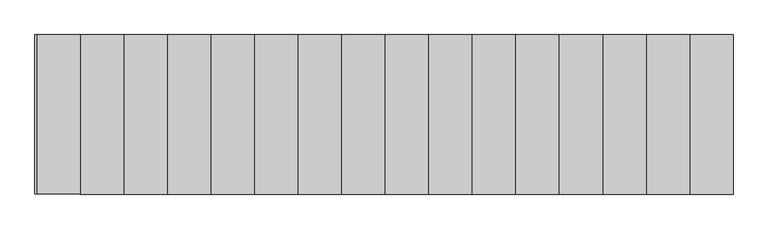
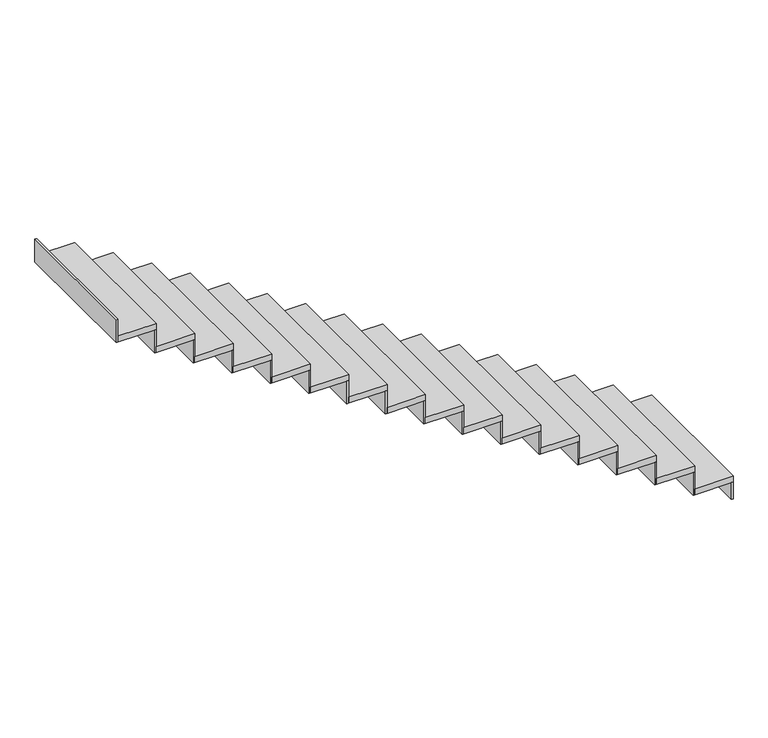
"""IFC4 building model written with IfcOpenShell, lengths in millimetres: stair flight geometry, Huella 50 mm Contrahuella 13 mm."""

from ifc_helpers import new_model, si_unit, frame, origin, place, context, project, spatial, polyline, outline, extrude, source, transform, mapped, element, save


def stair_flight_0d32d6d2(model_context):
    return source(origin(), model_context, "Body", "SweptSolid", [
        extrude(outline(polyline([(-7116.3952515, 5000.9420904), (-7103.8952515, 5000.9420904), (-7103.8952515, 3900.9420904), (-7116.3952515, 3900.9420904), (-7116.3952515, 5000.9420904)])), frame((0.0, 0.0, -5013.3149332), z_axis=(0.0, 0.0, 1.0), x_axis=(1.0, 0.0, 0.0)), (0.0, 0.0, 1.0), 139.0185255),
        extrude(outline(polyline([(-7403.8952515, 3900.9420904), (-7403.8952515, 5000.9420904), (-7103.8952515, 5000.9420904), (-7103.8952515, 3900.9420904), (-7403.8952515, 3900.9420904)])), frame((0.0, 0.0, -4874.2964077), z_axis=(0.0, 0.0, 1.0), x_axis=(1.0, 0.0, 0.0)), (0.0, 0.0, 1.0), 50.0),
        extrude(outline(polyline([(-7416.3952515, 5000.9420904), (-7403.8952515, 5000.9420904), (-7403.8952515, 3900.9420904), (-7416.3952515, 3900.9420904), (-7416.3952515, 5000.9420904)])), frame((0.0, 0.0, -4874.2964077), z_axis=(0.0, 0.0, 1.0), x_axis=(1.0, 0.0, 0.0)), (0.0, 0.0, 1.0), 189.0185255),
        extrude(outline(polyline([(-7703.8952515, 3900.9420904), (-7703.8952515, 5000.9420904), (-7403.8952515, 5000.9420904), (-7403.8952515, 3900.9420904), (-7703.8952515, 3900.9420904)])), frame((0.0, 0.0, -4685.2778822), z_axis=(0.0, 0.0, 1.0), x_axis=(1.0, 0.0, 0.0)), (0.0, 0.0, 1.0), 50.0),
        extrude(outline(polyline([(-7716.3952515, 5000.9420904), (-7703.8952515, 5000.9420904), (-7703.8952515, 3900.9420904), (-7716.3952515, 3900.9420904), (-7716.3952515, 5000.9420904)])), frame((0.0, 0.0, -4685.2778822), z_axis=(0.0, 0.0, 1.0), x_axis=(1.0, 0.0, 0.0)), (0.0, 0.0, 1.0), 189.0185255),
        extrude(outline(polyline([(-8003.8952515, 3900.9420904), (-8003.8952515, 5000.9420904), (-7703.8952515, 5000.9420904), (-7703.8952515, 3900.9420904), (-8003.8952515, 3900.9420904)])), frame((0.0, 0.0, -4496.2593567), z_axis=(0.0, 0.0, 1.0), x_axis=(1.0, 0.0, 0.0)), (0.0, 0.0, 1.0), 50.0),
        extrude(outline(polyline([(-8016.3952515, 5000.9420904), (-8003.8952515, 5000.9420904), (-8003.8952515, 3900.9420904), (-8016.3952515, 3900.9420904), (-8016.3952515, 5000.9420904)])), frame((0.0, 0.0, -4496.2593567), z_axis=(0.0, 0.0, 1.0), x_axis=(1.0, 0.0, 0.0)), (0.0, 0.0, 1.0), 189.0185255),
        extrude(outline(polyline([(-8303.8952515, 3900.9420904), (-8303.8952515, 5000.9420904), (-8003.8952515, 5000.9420904), (-8003.8952515, 3900.9420904), (-8303.8952515, 3900.9420904)])), frame((0.0, 0.0, -4307.2408313), z_axis=(0.0, 0.0, 1.0), x_axis=(1.0, 0.0, 0.0)), (0.0, 0.0, 1.0), 50.0),
        extrude(outline(polyline([(-8316.3952515, 5000.9420904), (-8303.8952515, 5000.9420904), (-8303.8952515, 3900.9420904), (-8316.3952515, 3900.9420904), (-8316.3952515, 5000.9420904)])), frame((0.0, 0.0, -4307.2408313), z_axis=(0.0, 0.0, 1.0), x_axis=(1.0, 0.0, 0.0)), (0.0, 0.0, 1.0), 189.0185255),
        extrude(outline(polyline([(-8603.8952515, 3900.9420904), (-8603.8952515, 5000.9420904), (-8303.8952515, 5000.9420904), (-8303.8952515, 3900.9420904), (-8603.8952515, 3900.9420904)])), frame((0.0, 0.0, -4118.2223058), z_axis=(0.0, 0.0, 1.0), x_axis=(1.0, 0.0, 0.0)), (0.0, 0.0, 1.0), 50.0),
        extrude(outline(polyline([(-8616.3952515, 5000.9420904), (-8603.8952515, 5000.9420904), (-8603.8952515, 3900.9420904), (-8616.3952515, 3900.9420904), (-8616.3952515, 5000.9420904)])), frame((0.0, 0.0, -4118.2223058), z_axis=(0.0, 0.0, 1.0), x_axis=(1.0, 0.0, 0.0)), (0.0, 0.0, 1.0), 189.0185255),
        extrude(outline(polyline([(-8903.8952515, 3900.9420904), (-8903.8952515, 5000.9420904), (-8603.8952515, 5000.9420904), (-8603.8952515, 3900.9420904), (-8903.8952515, 3900.9420904)])), frame((0.0, 0.0, -3929.2037803), z_axis=(0.0, 0.0, 1.0), x_axis=(1.0, 0.0, 0.0)), (0.0, 0.0, 1.0), 50.0),
        extrude(outline(polyline([(-8916.3952515, 5000.9420904), (-8903.8952515, 5000.9420904), (-8903.8952515, 3900.9420904), (-8916.3952515, 3900.9420904), (-8916.3952515, 5000.9420904)])), frame((0.0, 0.0, -3929.2037803), z_axis=(0.0, 0.0, 1.0), x_axis=(1.0, 0.0, 0.0)), (0.0, 0.0, 1.0), 189.0185255),
        extrude(outline(polyline([(-9203.8952515, 3900.9420904), (-9203.8952515, 5000.9420904), (-8903.8952515, 5000.9420904), (-8903.8952515, 3900.9420904), (-9203.8952515, 3900.9420904)])), frame((0.0, 0.0, -3740.1852548), z_axis=(0.0, 0.0, 1.0), x_axis=(1.0, 0.0, 0.0)), (0.0, 0.0, 1.0), 50.0),
        extrude(outline(polyline([(-9216.3952515, 5000.9420904), (-9203.8952515, 5000.9420904), (-9203.8952515, 3900.9420904), (-9216.3952515, 3900.9420904), (-9216.3952515, 5000.9420904)])), frame((0.0, 0.0, -3740.1852548), z_axis=(0.0, 0.0, 1.0), x_axis=(1.0, 0.0, 0.0)), (0.0, 0.0, 1.0), 189.0185255),
        extrude(outline(polyline([(-9503.8952515, 3900.9420904), (-9503.8952515, 5000.9420904), (-9203.8952515, 5000.9420904), (-9203.8952515, 3900.9420904), (-9503.8952515, 3900.9420904)])), frame((0.0, 0.0, -3551.1667293), z_axis=(0.0, 0.0, 1.0), x_axis=(1.0, 0.0, 0.0)), (0.0, 0.0, 1.0), 50.0),
        extrude(outline(polyline([(-9516.3952515, 5000.9420904), (-9503.8952515, 5000.9420904), (-9503.8952515, 3900.9420904), (-9516.3952515, 3900.9420904), (-9516.3952515, 5000.9420904)])), frame((0.0, 0.0, -3551.1667293), z_axis=(0.0, 0.0, 1.0), x_axis=(1.0, 0.0, 0.0)), (0.0, 0.0, 1.0), 189.0185255),
        extrude(outline(polyline([(-9803.8952515, 3900.9420904), (-9803.8952515, 5000.9420904), (-9503.8952515, 5000.9420904), (-9503.8952515, 3900.9420904), (-9803.8952515, 3900.9420904)])), frame((0.0, 0.0, -3362.1482039), z_axis=(0.0, 0.0, 1.0), x_axis=(1.0, 0.0, 0.0)), (0.0, 0.0, 1.0), 50.0),
        extrude(outline(polyline([(-9816.3952515, 5000.9420904), (-9803.8952515, 5000.9420904), (-9803.8952515, 3900.9420904), (-9816.3952515, 3900.9420904), (-9816.3952515, 5000.9420904)])), frame((0.0, 0.0, -3362.1482039), z_axis=(0.0, 0.0, 1.0), x_axis=(1.0, 0.0, 0.0)), (0.0, 0.0, 1.0), 189.0185255),
        extrude(outline(polyline([(-10103.8952515, 3900.9420904), (-10103.8952515, 5000.9420904), (-9803.8952515, 5000.9420904), (-9803.8952515, 3900.9420904), (-10103.8952515, 3900.9420904)])), frame((0.0, 0.0, -3173.1296784), z_axis=(0.0, 0.0, 1.0), x_axis=(1.0, 0.0, 0.0)), (0.0, 0.0, 1.0), 50.0),
        extrude(outline(polyline([(-10116.3952515, 5000.9420904), (-10103.8952515, 5000.9420904), (-10103.8952515, 3900.9420904), (-10116.3952515, 3900.9420904), (-10116.3952515, 5000.9420904)])), frame((0.0, 0.0, -3173.1296784), z_axis=(0.0, 0.0, 1.0), x_axis=(1.0, 0.0, 0.0)), (0.0, 0.0, 1.0), 189.0185255),
        extrude(outline(polyline([(-10403.8952515, 3900.9420904), (-10403.8952515, 5000.9420904), (-10103.8952515, 5000.9420904), (-10103.8952515, 3900.9420904), (-10403.8952515, 3900.9420904)])), frame((0.0, 0.0, -2984.1111529), z_axis=(0.0, 0.0, 1.0), x_axis=(1.0, 0.0, 0.0)), (0.0, 0.0, 1.0), 50.0),
        extrude(outline(polyline([(-10416.3952515, 5000.9420904), (-10403.8952515, 5000.9420904), (-10403.8952515, 3900.9420904), (-10416.3952515, 3900.9420904), (-10416.3952515, 5000.9420904)])), frame((0.0, 0.0, -2984.1111529), z_axis=(0.0, 0.0, 1.0), x_axis=(1.0, 0.0, 0.0)), (0.0, 0.0, 1.0), 189.0185255),
        extrude(outline(polyline([(-10703.8952515, 3900.9420904), (-10703.8952515, 5000.9420904), (-10403.8952515, 5000.9420904), (-10403.8952515, 3900.9420904), (-10703.8952515, 3900.9420904)])), frame((0.0, 0.0, -2795.0926274), z_axis=(0.0, 0.0, 1.0), x_axis=(1.0, 0.0, 0.0)), (0.0, 0.0, 1.0), 50.0),
        extrude(outline(polyline([(-10716.3952515, 5000.9420904), (-10703.8952515, 5000.9420904), (-10703.8952515, 3900.9420904), (-10716.3952515, 3900.9420904), (-10716.3952515, 5000.9420904)])), frame((0.0, 0.0, -2795.0926274), z_axis=(0.0, 0.0, 1.0), x_axis=(1.0, 0.0, 0.0)), (0.0, 0.0, 1.0), 189.0185255),
        extrude(outline(polyline([(-11003.8952515, 3900.9420904), (-11003.8952515, 5000.9420904), (-10703.8952515, 5000.9420904), (-10703.8952515, 3900.9420904), (-11003.8952515, 3900.9420904)])), frame((0.0, 0.0, -2606.0741019), z_axis=(0.0, 0.0, 1.0), x_axis=(1.0, 0.0, 0.0)), (0.0, 0.0, 1.0), 50.0),
        extrude(outline(polyline([(-11016.3952515, 5000.9420904), (-11003.8952515, 5000.9420904), (-11003.8952515, 3900.9420904), (-11016.3952515, 3900.9420904), (-11016.3952515, 5000.9420904)])), frame((0.0, 0.0, -2606.0741019), z_axis=(0.0, 0.0, 1.0), x_axis=(1.0, 0.0, 0.0)), (0.0, 0.0, 1.0), 189.0185255),
        extrude(outline(polyline([(-11303.8952515, 3900.9420904), (-11303.8952515, 5000.9420904), (-11003.8952515, 5000.9420904), (-11003.8952515, 3900.9420904), (-11303.8952515, 3900.9420904)])), frame((0.0, 0.0, -2417.0555764), z_axis=(0.0, 0.0, 1.0), x_axis=(1.0, 0.0, 0.0)), (0.0, 0.0, 1.0), 50.0),
        extrude(outline(polyline([(-11316.3952515, 5000.9420904), (-11303.8952515, 5000.9420904), (-11303.8952515, 3900.9420904), (-11316.3952515, 3900.9420904), (-11316.3952515, 5000.9420904)])), frame((0.0, 0.0, -2417.0555764), z_axis=(0.0, 0.0, 1.0), x_axis=(1.0, 0.0, 0.0)), (0.0, 0.0, 1.0), 189.0185255),
        extrude(outline(polyline([(-11603.8952515, 3900.9420904), (-11603.8952515, 5000.9420904), (-11303.8952515, 5000.9420904), (-11303.8952515, 3900.9420904), (-11603.8952515, 3900.9420904)])), frame((0.0, 0.0, -2228.037051), z_axis=(0.0, 0.0, 1.0), x_axis=(1.0, 0.0, 0.0)), (0.0, 0.0, 1.0), 50.0),
        extrude(outline(polyline([(-11616.3952515, 5000.9420904), (-11603.8952515, 5000.9420904), (-11603.8952515, 3900.9420904), (-11616.3952515, 3900.9420904), (-11616.3952515, 5000.9420904)])), frame((0.0, 0.0, -2228.037051), z_axis=(0.0, 0.0, 1.0), x_axis=(1.0, 0.0, 0.0)), (0.0, 0.0, 1.0), 189.0185255),
        extrude(outline(polyline([(-11916.3952515, 5000.9420904), (-11903.8952515, 5000.9420904), (-11903.8952515, 3900.9420904), (-11916.3952515, 3900.9420904), (-11916.3952515, 5000.9420904)])), frame((0.0, 0.0, -2039.0185255), z_axis=(0.0, 0.0, 1.0), x_axis=(1.0, 0.0, 0.0)), (0.0, 0.0, 1.0), 189.0185255),
        extrude(outline(polyline([(-11903.8952515, 3900.9420904), (-11903.8952515, 5000.9420904), (-11603.8952515, 5000.9420904), (-11603.8952515, 3900.9420904), (-11903.8952515, 3900.9420904)])), frame((0.0, 0.0, -2039.0185255), z_axis=(0.0, 0.0, 1.0), x_axis=(1.0, 0.0, 0.0)), (0.0, 0.0, 1.0), 50.0),
    ])


if __name__ == "__main__":
    model = new_model("IFC4")
    model_context = context("Model", 3, world=origin())
    ifc_project = project(units=[si_unit("LENGTHUNIT", "METRE", prefix="MILLI")], contexts=[model_context])
    site = spatial("IfcSite", under=ifc_project)
    building = spatial("IfcBuilding", under=site)
    placement = place(None, origin())
    stair_flight_shape = stair_flight_0d32d6d2(model_context)
    element("IfcStairFlight", 1, ObjectType="Huella 50 mm Contrahuella 13 mm", at=placement, inside=building, context=model_context, shape_type="MappedRepresentation", body=[
        mapped(stair_flight_shape, transform((0.0, 0.0, 0.0), x_axis=(1.0, 0.0, 0.0), y_axis=(0.0, 1.0, 0.0), z_axis=(0.0, 0.0, 1.0))),
    ])
    save(model, "model.ifc")
